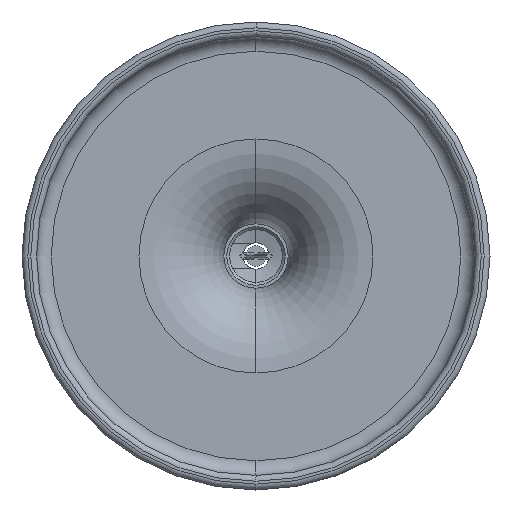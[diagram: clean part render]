
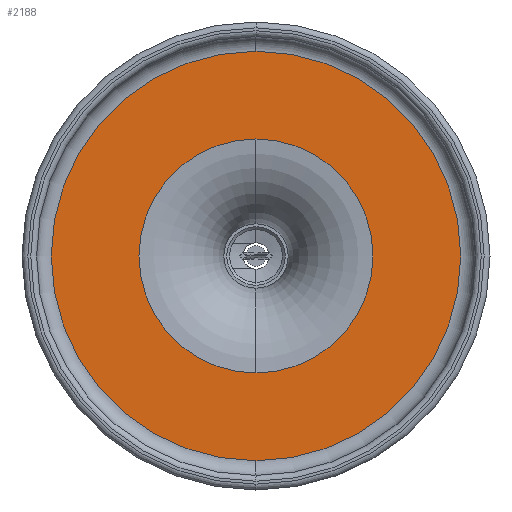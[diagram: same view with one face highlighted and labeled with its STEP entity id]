
A CAD part, front view. The second image highlights one B-rep face of the part: STEP entity #2188.
In plain terms, the highlighted planar face has unit normal (0, -1, 0).
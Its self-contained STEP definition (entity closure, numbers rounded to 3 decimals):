
#73 = CIRCLE ( 'NONE', #2183, 35. ) ;
#145 = ORIENTED_EDGE ( 'NONE', *, *, #2103, .F. ) ;
#212 = AXIS2_PLACEMENT_3D ( 'NONE', #939, #2163, #3726 ) ;
#552 = VERTEX_POINT ( 'NONE', #3111 ) ;
#628 = ORIENTED_EDGE ( 'NONE', *, *, #3724, .T. ) ;
#939 = CARTESIAN_POINT ( 'NONE',  ( 0., 260.112, 0. ) ) ;
#1094 = AXIS2_PLACEMENT_3D ( 'NONE', #2692, #3982, #2376 ) ;
#1289 = FACE_OUTER_BOUND ( 'NONE', #2392, .T. ) ;
#1290 = DIRECTION ( 'NONE',  ( 0., -1., 0. ) ) ;
#1392 = CARTESIAN_POINT ( 'NONE',  ( 0., 260.112, 0. ) ) ;
#1448 = ORIENTED_EDGE ( 'NONE', *, *, #1898, .T. ) ;
#1622 = VERTEX_POINT ( 'NONE', #2697 ) ;
#1748 = CIRCLE ( 'NONE', #212, 20. ) ;
#1819 = CIRCLE ( 'NONE', #3041, 35. ) ;
#1856 = DIRECTION ( 'NONE',  ( 0., 1., 0. ) ) ;
#1898 = EDGE_CURVE ( 'NONE', #1622, #552, #73, .T. ) ;
#1936 = AXIS2_PLACEMENT_3D ( 'NONE', #2231, #1856, #2513 ) ;
#2103 = EDGE_CURVE ( 'NONE', #3584, #2300, #3873, .T. ) ;
#2105 = CARTESIAN_POINT ( 'NONE',  ( 0., 260.112, 20. ) ) ;
#2163 = DIRECTION ( 'NONE',  ( 0., -1., 0. ) ) ;
#2183 = AXIS2_PLACEMENT_3D ( 'NONE', #1392, #3846, #2907 ) ;
#2188 = ADVANCED_FACE ( 'NONE', ( #2772, #1289 ), #3120, .F. ) ;
#2231 = CARTESIAN_POINT ( 'NONE',  ( -35., 260.112, 0. ) ) ;
#2300 = VERTEX_POINT ( 'NONE', #3403 ) ;
#2335 = EDGE_LOOP ( 'NONE', ( #3327, #145 ) ) ;
#2376 = DIRECTION ( 'NONE',  ( 0., 0., -1. ) ) ;
#2392 = EDGE_LOOP ( 'NONE', ( #628, #1448 ) ) ;
#2511 = EDGE_CURVE ( 'NONE', #2300, #3584, #1748, .T. ) ;
#2513 = DIRECTION ( 'NONE',  ( 0., 0., 1. ) ) ;
#2552 = CARTESIAN_POINT ( 'NONE',  ( 0., 260.112, 0. ) ) ;
#2692 = CARTESIAN_POINT ( 'NONE',  ( 0., 260.112, 0. ) ) ;
#2697 = CARTESIAN_POINT ( 'NONE',  ( 0., 260.112, 35. ) ) ;
#2772 = FACE_BOUND ( 'NONE', #2335, .T. ) ;
#2907 = DIRECTION ( 'NONE',  ( 0., 0., -1. ) ) ;
#3041 = AXIS2_PLACEMENT_3D ( 'NONE', #2552, #1290, #3760 ) ;
#3111 = CARTESIAN_POINT ( 'NONE',  ( 0., 260.112, -35. ) ) ;
#3120 = PLANE ( 'NONE',  #1936 ) ;
#3327 = ORIENTED_EDGE ( 'NONE', *, *, #2511, .F. ) ;
#3403 = CARTESIAN_POINT ( 'NONE',  ( 0., 260.112, -20. ) ) ;
#3584 = VERTEX_POINT ( 'NONE', #2105 ) ;
#3724 = EDGE_CURVE ( 'NONE', #552, #1622, #1819, .T. ) ;
#3726 = DIRECTION ( 'NONE',  ( 0., 0., -1. ) ) ;
#3760 = DIRECTION ( 'NONE',  ( 0., 0., -1. ) ) ;
#3846 = DIRECTION ( 'NONE',  ( 0., -1., 0. ) ) ;
#3873 = CIRCLE ( 'NONE', #1094, 20. ) ;
#3982 = DIRECTION ( 'NONE',  ( 0., -1., 0. ) ) ;
